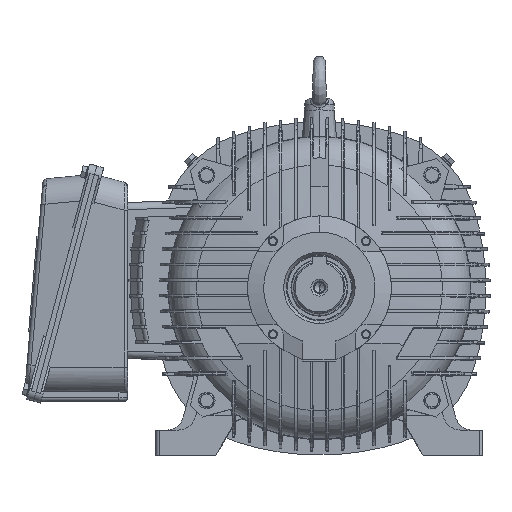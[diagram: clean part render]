
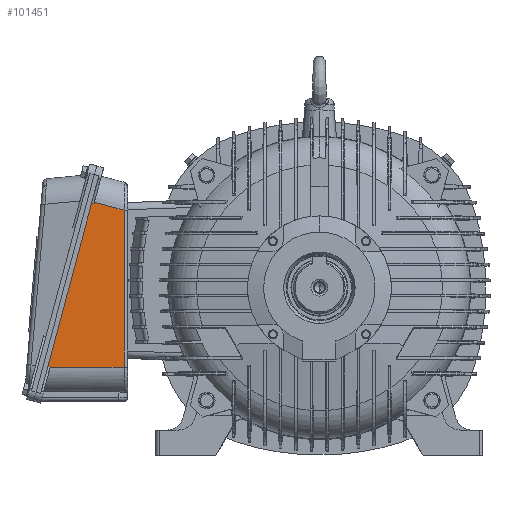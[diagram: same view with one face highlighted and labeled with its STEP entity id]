
A CAD part, top view. The second image highlights one B-rep face of the part: STEP entity #101451.
In plain terms, the highlighted planar face has unit normal (0, 0, 1).
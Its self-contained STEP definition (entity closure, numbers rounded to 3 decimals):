
#9313 = DIRECTION ( 'NONE',  ( -1., 0., 0. ) ) ;
#9314 = DIRECTION ( 'NONE',  ( 0., 0., -1. ) ) ;
#9315 = CARTESIAN_POINT ( 'NONE',  ( -320., -177., 177.5 ) ) ;
#9316 = AXIS2_PLACEMENT_3D ( 'NONE', #9315, #9314, #9313 ) ;
#9317 = PLANE ( 'NONE',  #9316 ) ;
#9318 = FACE_OUTER_BOUND ( 'NONE', #101403, .T. ) ;
#46565 = VERTEX_POINT ( 'NONE', #52942 ) ;
#52942 = CARTESIAN_POINT ( 'NONE',  ( -449.464, -132., 177.5 ) ) ;
#54543 = DIRECTION ( 'NONE',  ( 1., 0., 0. ) ) ;
#54544 = VECTOR ( 'NONE', #54543, 1000. ) ;
#54545 = CARTESIAN_POINT ( 'NONE',  ( -320., -132., 177.5 ) ) ;
#54546 = LINE ( 'NONE', #54545, #54544 ) ;
#54686 = CARTESIAN_POINT ( 'NONE',  ( -326., -132., 177.5 ) ) ;
#57970 = LINE ( 'NONE', #58104, #58102 ) ;
#58040 = CARTESIAN_POINT ( 'NONE',  ( -449.424, -131.851, 177.5 ) ) ;
#58101 = DIRECTION ( 'NONE',  ( -0.259, -0.966, 0. ) ) ;
#58102 = VECTOR ( 'NONE', #58101, 1000. ) ;
#58104 = CARTESIAN_POINT ( 'NONE',  ( -452.042, -141.619, 177.5 ) ) ;
#58165 = EDGE_CURVE ( 'NONE', #46565, #60175, #54546, .T. ) ;
#60175 = VERTEX_POINT ( 'NONE', #54686 ) ;
#61427 = CARTESIAN_POINT ( 'NONE',  ( -380.177, 142.04, 177.5 ) ) ;
#61476 = DIRECTION ( 'NONE',  ( 0.259, 0.966, 0. ) ) ;
#61477 = VECTOR ( 'NONE', #61476, 1000. ) ;
#61479 = CARTESIAN_POINT ( 'NONE',  ( -455.906, -140.584, 177.5 ) ) ;
#61481 = LINE ( 'NONE', #61479, #61477 ) ;
#61568 = CARTESIAN_POINT ( 'NONE',  ( -453.288, -130.816, 177.5 ) ) ;
#74150 = CARTESIAN_POINT ( 'NONE',  ( -376.313, 141.005, 177.5 ) ) ;
#74262 = DIRECTION ( 'NONE',  ( 0.966, -0.259, 0. ) ) ;
#74263 = VECTOR ( 'NONE', #74262, 1000. ) ;
#74265 = CARTESIAN_POINT ( 'NONE',  ( -244.271, 105.625, 177.5 ) ) ;
#74267 = LINE ( 'NONE', #74265, #74263 ) ;
#74484 = DIRECTION ( 'NONE',  ( 0.259, 0.966, 0. ) ) ;
#74486 = VECTOR ( 'NONE', #74484, 1000. ) ;
#74488 = CARTESIAN_POINT ( 'NONE',  ( -452.042, -141.619, 177.5 ) ) ;
#74490 = LINE ( 'NONE', #74488, #74486 ) ;
#75538 = DIRECTION ( 'NONE',  ( -0.966, 0.259, 0. ) ) ;
#75539 = VECTOR ( 'NONE', #75538, 1000. ) ;
#75542 = CARTESIAN_POINT ( 'NONE',  ( -243.647, 107.954, 177.5 ) ) ;
#75544 = LINE ( 'NONE', #75542, #75539 ) ;
#75584 = CARTESIAN_POINT ( 'NONE',  ( -326., 130.02, 177.5 ) ) ;
#75586 = DIRECTION ( 'NONE',  ( 0., 1., 0. ) ) ;
#75588 = VECTOR ( 'NONE', #75586, 1000. ) ;
#75591 = CARTESIAN_POINT ( 'NONE',  ( -326., -177., 177.5 ) ) ;
#75593 = LINE ( 'NONE', #75591, #75588 ) ;
#76336 = CARTESIAN_POINT ( 'NONE',  ( -375.689, 143.334, 177.5 ) ) ;
#77263 = DIRECTION ( 'NONE',  ( -0.966, 0.259, 0. ) ) ;
#77264 = VECTOR ( 'NONE', #77263, 1000. ) ;
#77265 = CARTESIAN_POINT ( 'NONE',  ( -317.382, -167.231, 177.5 ) ) ;
#77266 = LINE ( 'NONE', #77265, #77264 ) ;
#85179 = EDGE_CURVE ( 'NONE', #85187, #46565, #57970, .T. ) ;
#85187 = VERTEX_POINT ( 'NONE', #58040 ) ;
#86511 = VERTEX_POINT ( 'NONE', #61427 ) ;
#86522 = EDGE_CURVE ( 'NONE', #86539, #86511, #61481, .T. ) ;
#86539 = VERTEX_POINT ( 'NONE', #61568 ) ;
#101403 = EDGE_LOOP ( 'NONE', ( #116234, #116282, #116283, #115998, #115899, #115799, #116121, #116689 ) ) ;
#101451 = ADVANCED_FACE ( 'NONE', ( #9318 ), #9317, .F. ) ;
#115799 = ORIENTED_EDGE ( 'NONE', *, *, #86522, .F. ) ;
#115885 = VERTEX_POINT ( 'NONE', #74150 ) ;
#115898 = EDGE_CURVE ( 'NONE', #86511, #115885, #74267, .T. ) ;
#115899 = ORIENTED_EDGE ( 'NONE', *, *, #115898, .F. ) ;
#115965 = EDGE_CURVE ( 'NONE', #115885, #116484, #74490, .T. ) ;
#115998 = ORIENTED_EDGE ( 'NONE', *, *, #115965, .F. ) ;
#116121 = ORIENTED_EDGE ( 'NONE', *, *, #116714, .F. ) ;
#116234 = ORIENTED_EDGE ( 'NONE', *, *, #58165, .T. ) ;
#116251 = EDGE_CURVE ( 'NONE', #116275, #116484, #75544, .T. ) ;
#116273 = EDGE_CURVE ( 'NONE', #60175, #116275, #75593, .T. ) ;
#116275 = VERTEX_POINT ( 'NONE', #75584 ) ;
#116282 = ORIENTED_EDGE ( 'NONE', *, *, #116273, .T. ) ;
#116283 = ORIENTED_EDGE ( 'NONE', *, *, #116251, .T. ) ;
#116484 = VERTEX_POINT ( 'NONE', #76336 ) ;
#116689 = ORIENTED_EDGE ( 'NONE', *, *, #85179, .T. ) ;
#116714 = EDGE_CURVE ( 'NONE', #85187, #86539, #77266, .T. ) ;
